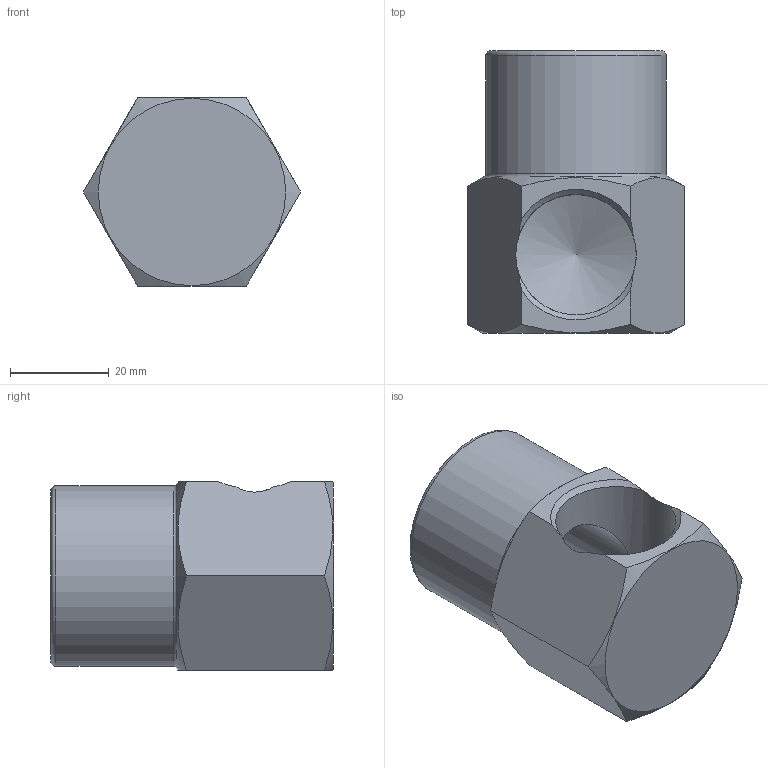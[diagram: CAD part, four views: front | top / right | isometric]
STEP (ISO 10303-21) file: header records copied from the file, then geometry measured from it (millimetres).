
FILE_DESCRIPTION(/* description */ (''),/* implementation_level */ '2;1');
FILE_NAME(/* name */ 'C:/Users/drich/Desktop/75B v2.step',/* time_stamp */ '2020-01-14T10:41:44-06:00',/* author */ (''),/* organization */ (''),/* preprocessor_version */ 'ST-DEVELOPER v18',/* originating_system */ 'Autodesk Translation Framework v8.12.0.6',/* authorisation */ '');
FILE_SCHEMA (('AUTOMOTIVE_DESIGN { 1 0 10303 214 3 1 1 }'));
Length unit declared in the file: inch
Products named in the file (1): 75B
Bounding box: 43.99 x 57.15 x 38.1 mm (x, y, z)
Volume: 39013.5 mm3; surface area: 13119.6 mm2
Topology: 1 solids, 1 shells, 22 faces, 61 edges, 40 vertices
Faces by surface type: plane 9, cone 7, cylinder 4, torus 2
Full cylindrical faces by diameter (mm): 20.625 x1, 24.387 x2, 36.5 x1
Entity records: 781 total; most frequent: CARTESIAN_POINT 209, ORIENTED_EDGE 120, DIRECTION 109, EDGE_CURVE 60, AXIS2_PLACEMENT_3D 46, VERTEX_POINT 40, EDGE_LOOP 24, FACE_OUTER_BOUND 22
